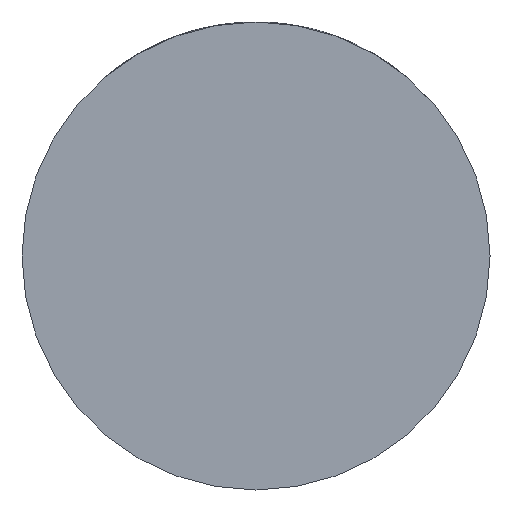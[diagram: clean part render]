
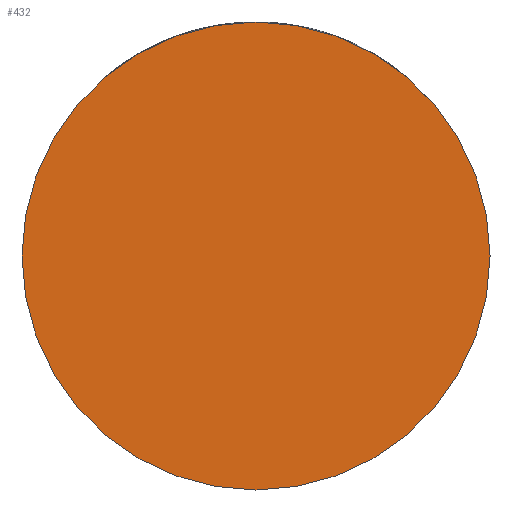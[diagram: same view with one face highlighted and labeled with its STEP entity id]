
A CAD part, front view. The second image highlights one B-rep face of the part: STEP entity #432.
In plain terms, the highlighted planar face has unit normal (0, -1, 0).
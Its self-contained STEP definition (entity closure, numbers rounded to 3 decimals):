
#432 = ADVANCED_FACE ( 'NONE', ( #3564 ), #4247, .T. ) ;
#587 = ORIENTED_EDGE ( 'NONE', *, *, #767, .T. ) ;
#714 = ORIENTED_EDGE ( 'NONE', *, *, #4509, .T. ) ;
#767 = EDGE_CURVE ( 'NONE', #986, #2382, #966, .T. ) ;
#779 = DIRECTION ( 'NONE',  ( 0., -1., 0. ) ) ;
#798 = CARTESIAN_POINT ( 'NONE',  ( 0., -33., 0. ) ) ;
#809 = AXIS2_PLACEMENT_3D ( 'NONE', #1772, #4210, #2096 ) ;
#966 = CIRCLE ( 'NONE', #3538, 29.5 ) ;
#986 = VERTEX_POINT ( 'NONE', #2334 ) ;
#1618 = CIRCLE ( 'NONE', #809, 29.5 ) ;
#1740 = CARTESIAN_POINT ( 'NONE',  ( -29.5, -33., 0. ) ) ;
#1772 = CARTESIAN_POINT ( 'NONE',  ( 0., -33., 0. ) ) ;
#1814 = DIRECTION ( 'NONE',  ( 0., -1., 0. ) ) ;
#2069 = AXIS2_PLACEMENT_3D ( 'NONE', #2506, #1814, #2484 ) ;
#2096 = DIRECTION ( 'NONE',  ( 1., 0., 0. ) ) ;
#2334 = CARTESIAN_POINT ( 'NONE',  ( 29.5, -33., 0. ) ) ;
#2382 = VERTEX_POINT ( 'NONE', #1740 ) ;
#2484 = DIRECTION ( 'NONE',  ( 1., 0., 0. ) ) ;
#2506 = CARTESIAN_POINT ( 'NONE',  ( 0., -33., 0. ) ) ;
#3260 = DIRECTION ( 'NONE',  ( 1., 0., 0. ) ) ;
#3538 = AXIS2_PLACEMENT_3D ( 'NONE', #798, #779, #3260 ) ;
#3564 = FACE_OUTER_BOUND ( 'NONE', #4117, .T. ) ;
#4117 = EDGE_LOOP ( 'NONE', ( #714, #587 ) ) ;
#4210 = DIRECTION ( 'NONE',  ( 0., -1., 0. ) ) ;
#4247 = PLANE ( 'NONE',  #2069 ) ;
#4509 = EDGE_CURVE ( 'NONE', #2382, #986, #1618, .T. ) ;
